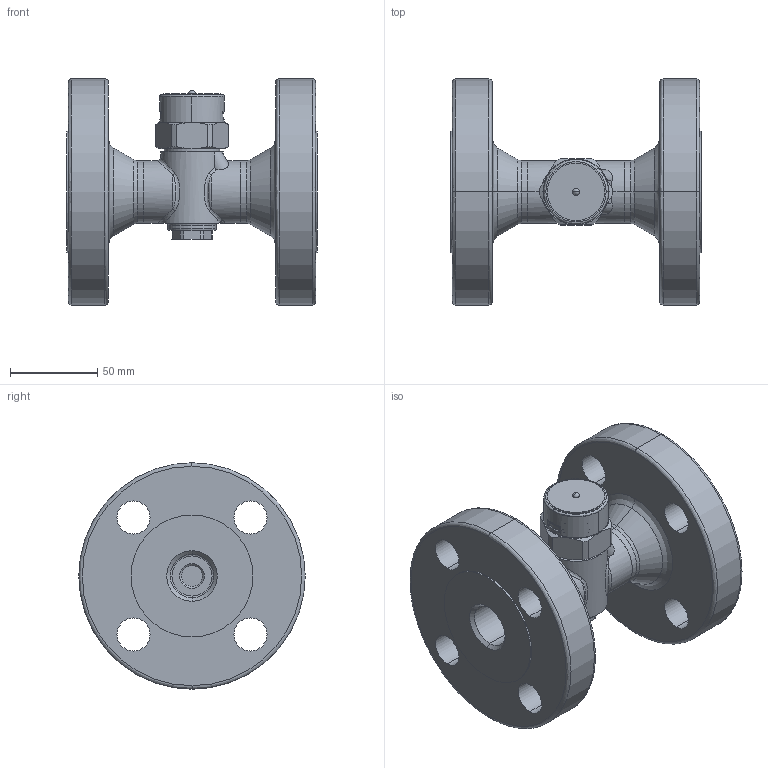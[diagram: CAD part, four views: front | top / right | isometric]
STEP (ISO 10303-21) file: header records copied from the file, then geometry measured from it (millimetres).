
FILE_DESCRIPTION( (''), '2;1');
FILE_NAME ('PC1276.13744.TSD-42F 25A JIS40K_30029.stp','2023-07-25T10:04:46',(''),(''),'spGate 19.8.4 (****-****-****-****)','','');
FILE_SCHEMA (('AUTOMOTIVE_DESIGN'));
Length unit declared in the file: millimetre
Products named in the file (10): Assembly; TSD-42F strainer cap; TSD-42F 銘板鋲; TSD-42F gasket; TSD-42F 25A 本体　3D; TSD-42F 銘板　3D; TSD-42F 保温カバー　3D; TSD-42F キャップA 3D; TSD-42F 25A 40K Flange 3D; TSD-42F 25A 40K Flange 3D_mr
Assembly tree (9 placements, depth 2):
  Assembly
    TSD-42F strainer cap
    TSD-42F 銘板鋲
    TSD-42F gasket
    TSD-42F 25A 本体　3D
    TSD-42F 銘板　3D
    TSD-42F 保温カバー　3D
    TSD-42F キャップA 3D
    TSD-42F 25A 40K Flange 3D
    TSD-42F 25A 40K Flange 3D_mr
Bounding box: 144 x 130 x 130 mm (x, y, z)
Volume: 669819.4 mm3; surface area: 117412.7 mm2
Topology: 9 solids, 9 shells, 319 faces, 719 edges, 427 vertices
Faces by surface type: cylinder 130, bspline 130, plane 57, sphere 2
Entity records: 17355 total; most frequent: CARTESIAN_POINT 5081, ORIENTED_EDGE 1398, DIRECTION 1172, COLOUR_RGB 1027, PRESENTATION_STYLE_ASSIGNMENT 1027, STYLED_ITEM 1027, EDGE_CURVE 699, DRAUGHTING_PRE_DEFINED_CURVE_FONT 699
